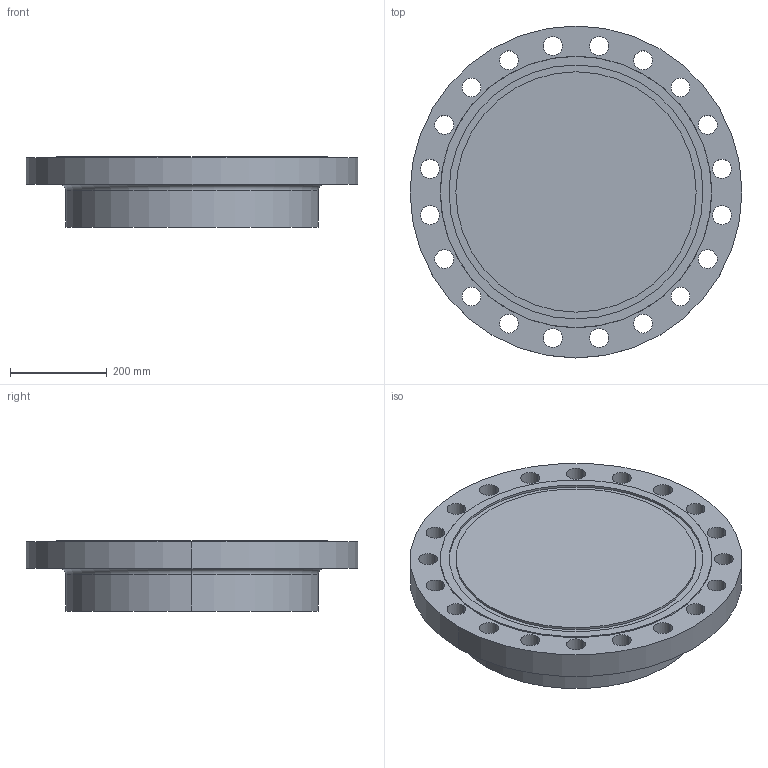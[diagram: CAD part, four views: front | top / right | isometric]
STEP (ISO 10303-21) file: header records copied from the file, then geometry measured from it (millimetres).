
FILE_DESCRIPTION (( 'STEP AP214' ), '1' );
FILE_NAME ('PN40 DN450 Type 21(i) - Type D Face.STEP', '2018-12-29T04:53:18', ( '' ), ( '' ), 'SwSTEP 2.0', 'SolidWorks 2019', '' );
FILE_SCHEMA (( 'AUTOMOTIVE_DESIGN' ));
Length unit declared in the file: millimetre
Products named in the file (1): PN40 DN450 Type 21(i) - Type D Face
Bounding box: 685 x 685 x 145 mm (x, y, z)
Volume: 38220023 mm3; surface area: 1097313.5 mm2
Topology: 1 solids, 1 shells, 58 faces, 154 edges, 102 vertices
Faces by surface type: cylinder 48, plane 6, torus 2, cone 2
Entity records: 1980 total; most frequent: DIRECTION 376, CARTESIAN_POINT 315, ORIENTED_EDGE 308, AXIS2_PLACEMENT_3D 163, EDGE_CURVE 154, CIRCLE 104, VERTEX_POINT 102, EDGE_LOOP 102
